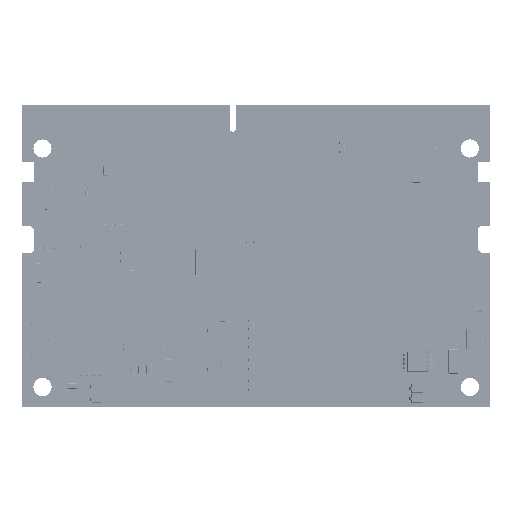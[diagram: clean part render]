
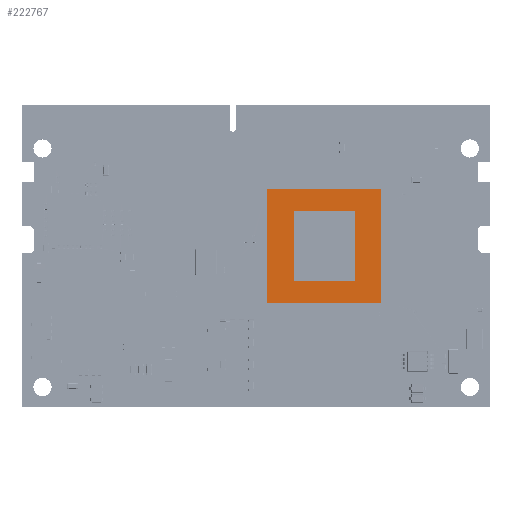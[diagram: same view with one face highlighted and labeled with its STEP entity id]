
A CAD part, top view. The second image highlights one B-rep face of the part: STEP entity #222767.
In plain terms, the highlighted planar face has unit normal (0, 0, 1).
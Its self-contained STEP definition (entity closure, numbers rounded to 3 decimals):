
#15376=DIRECTION('',(0.,1.,0.));
#15377=VECTOR('',#15376,17.);
#15378=CARTESIAN_POINT('',(50.45,12.5,2.2));
#15379=LINE('',#15378,#15377);
#15383=DIRECTION('',(1.,0.,0.));
#15384=VECTOR('',#15383,17.);
#15385=CARTESIAN_POINT('',(33.45,12.5,2.2));
#15386=LINE('',#15385,#15384);
#15390=DIRECTION('',(0.,-1.,0.));
#15391=VECTOR('',#15390,17.);
#15392=CARTESIAN_POINT('',(33.45,29.5,2.2));
#15393=LINE('',#15392,#15391);
#15397=DIRECTION('',(-1.,0.,0.));
#15398=VECTOR('',#15397,17.);
#15399=CARTESIAN_POINT('',(50.45,29.5,2.2));
#15400=LINE('',#15399,#15398);
#15432=DIRECTION('',(0.,1.,0.));
#15433=VECTOR('',#15432,10.5);
#15434=CARTESIAN_POINT('',(46.45,15.75,2.2));
#15435=LINE('',#15434,#15433);
#15439=DIRECTION('',(-1.,0.,0.));
#15440=VECTOR('',#15439,9.);
#15441=CARTESIAN_POINT('',(46.45,26.25,2.2));
#15442=LINE('',#15441,#15440);
#15446=DIRECTION('',(0.,-1.,0.));
#15447=VECTOR('',#15446,10.5);
#15448=CARTESIAN_POINT('',(37.45,26.25,2.2));
#15449=LINE('',#15448,#15447);
#15453=DIRECTION('',(1.,0.,0.));
#15454=VECTOR('',#15453,9.);
#15455=CARTESIAN_POINT('',(37.45,15.75,2.2));
#15456=LINE('',#15455,#15454);
#186283=CARTESIAN_POINT('',(50.45,12.5,2.2));
#186284=CARTESIAN_POINT('',(50.45,29.5,2.2));
#186285=VERTEX_POINT('',#186283);
#186286=VERTEX_POINT('',#186284);
#186287=CARTESIAN_POINT('',(33.45,29.5,2.2));
#186288=VERTEX_POINT('',#186287);
#186289=CARTESIAN_POINT('',(33.45,12.5,2.2));
#186290=VERTEX_POINT('',#186289);
#186315=CARTESIAN_POINT('',(46.45,15.75,2.2));
#186316=CARTESIAN_POINT('',(46.45,26.25,2.2));
#186317=VERTEX_POINT('',#186315);
#186318=VERTEX_POINT('',#186316);
#186319=CARTESIAN_POINT('',(37.45,26.25,2.2));
#186320=VERTEX_POINT('',#186319);
#186321=CARTESIAN_POINT('',(37.45,15.75,2.2));
#186322=VERTEX_POINT('',#186321);
#222746=CARTESIAN_POINT('',(41.95,21.,2.2));
#222747=DIRECTION('',(0.,0.,1.));
#222748=DIRECTION('',(-1.,0.,0.));
#222749=AXIS2_PLACEMENT_3D('',#222746,#222747,#222748);
#222750=PLANE('',#222749);
#222751=ORIENTED_EDGE('',*,*,#222698,.F.);
#222752=ORIENTED_EDGE('',*,*,#222713,.F.);
#222753=ORIENTED_EDGE('',*,*,#222727,.F.);
#222754=ORIENTED_EDGE('',*,*,#222740,.F.);
#222755=EDGE_LOOP('',(#222751,#222752,#222753,#222754));
#222756=FACE_OUTER_BOUND('',#222755,.F.);
#222758=ORIENTED_EDGE('',*,*,#222757,.T.);
#222760=ORIENTED_EDGE('',*,*,#222759,.T.);
#222762=ORIENTED_EDGE('',*,*,#222761,.T.);
#222764=ORIENTED_EDGE('',*,*,#222763,.T.);
#222765=EDGE_LOOP('',(#222758,#222760,#222762,#222764));
#222766=FACE_BOUND('',#222765,.F.);
#222767=ADVANCED_FACE('',(#222756,#222766),#222750,.T.);
#222698=EDGE_CURVE('',#186285,#186286,#15379,.T.);
#222713=EDGE_CURVE('',#186290,#186285,#15386,.T.);
#222727=EDGE_CURVE('',#186288,#186290,#15393,.T.);
#222740=EDGE_CURVE('',#186286,#186288,#15400,.T.);
#222757=EDGE_CURVE('',#186317,#186318,#15435,.T.);
#222759=EDGE_CURVE('',#186318,#186320,#15442,.T.);
#222761=EDGE_CURVE('',#186320,#186322,#15449,.T.);
#222763=EDGE_CURVE('',#186322,#186317,#15456,.T.);
